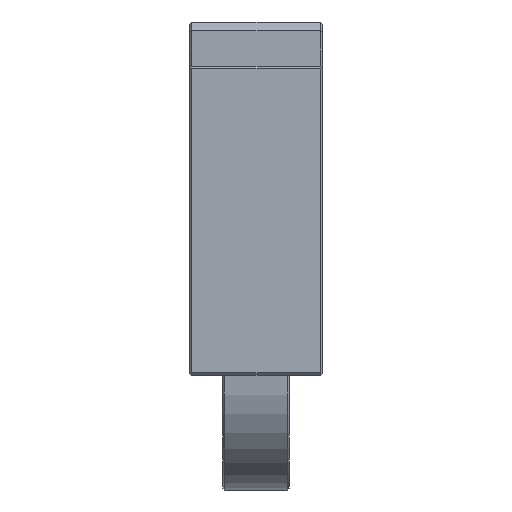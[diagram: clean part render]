
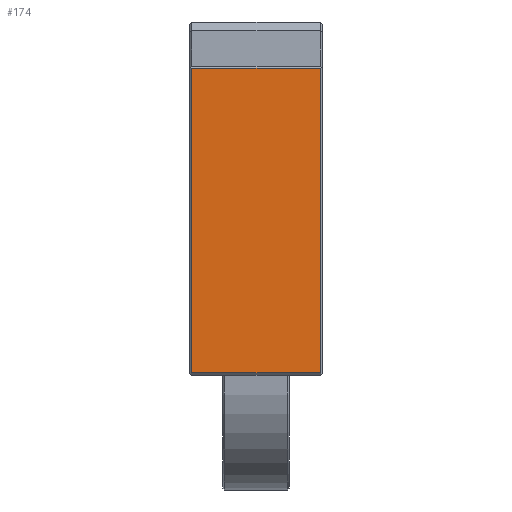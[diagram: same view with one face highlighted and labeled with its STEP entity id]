
A CAD part, left-side view. The second image highlights one B-rep face of the part: STEP entity #174.
In plain terms, the highlighted planar face has unit normal (-1, 0, 0).
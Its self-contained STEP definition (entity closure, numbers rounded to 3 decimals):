
#174 = ADVANCED_FACE( '', ( #580 ), #581, .T. );
#580 = FACE_OUTER_BOUND( '', #1441, .T. );
#581 = PLANE( '', #1442 );
#1441 = EDGE_LOOP( '', ( #2446, #2447, #2448, #2449 ) );
#1442 = AXIS2_PLACEMENT_3D( '', #2450, #2451, #2452 );
#2446 = ORIENTED_EDGE( '', *, *, #5684, .T. );
#2447 = ORIENTED_EDGE( '', *, *, #5685, .T. );
#2448 = ORIENTED_EDGE( '', *, *, #5686, .T. );
#2449 = ORIENTED_EDGE( '', *, *, #5687, .T. );
#2450 = CARTESIAN_POINT( '', ( -53., -15., 0. ) );
#2451 = DIRECTION( '', ( -1., 0., 0. ) );
#2452 = DIRECTION( '', ( 0., 0., 1. ) );
#5684 = EDGE_CURVE( '', #6874, #6875, #6876, .T. );
#5685 = EDGE_CURVE( '', #6875, #6877, #6878, .T. );
#5686 = EDGE_CURVE( '', #6877, #6879, #6880, .T. );
#5687 = EDGE_CURVE( '', #6879, #6874, #6881, .T. );
#6874 = VERTEX_POINT( '', #8689 );
#6875 = VERTEX_POINT( '', #8690 );
#6876 = LINE( '', #8691, #8692 );
#6877 = VERTEX_POINT( '', #8693 );
#6878 = LINE( '', #8694, #8695 );
#6879 = VERTEX_POINT( '', #8696 );
#6880 = LINE( '', #8697, #8698 );
#6881 = LINE( '', #8699, #8700 );
#8689 = CARTESIAN_POINT( '', ( -53., 14.5, 69.5 ) );
#8690 = CARTESIAN_POINT( '', ( -53., 14.5, 0.5 ) );
#8691 = CARTESIAN_POINT( '', ( -53., 14.5, 0. ) );
#8692 = VECTOR( '', #11608, 1000. );
#8693 = CARTESIAN_POINT( '', ( -53., -14.5, 0.5 ) );
#8694 = CARTESIAN_POINT( '', ( -53., -15., 0.5 ) );
#8695 = VECTOR( '', #11609, 1000. );
#8696 = CARTESIAN_POINT( '', ( -53., -14.5, 69.5 ) );
#8697 = CARTESIAN_POINT( '', ( -53., -14.5, 69.5 ) );
#8698 = VECTOR( '', #11610, 1000. );
#8699 = CARTESIAN_POINT( '', ( -53., -15., 69.5 ) );
#8700 = VECTOR( '', #11611, 1000. );
#11608 = DIRECTION( '', ( 0., 0., -1. ) );
#11609 = DIRECTION( '', ( 0., -1., 0. ) );
#11610 = DIRECTION( '', ( 0., 0., 1. ) );
#11611 = DIRECTION( '', ( 0., 1., 0. ) );
